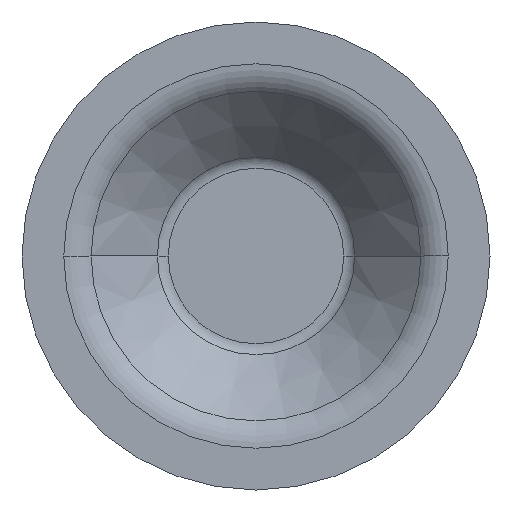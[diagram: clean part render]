
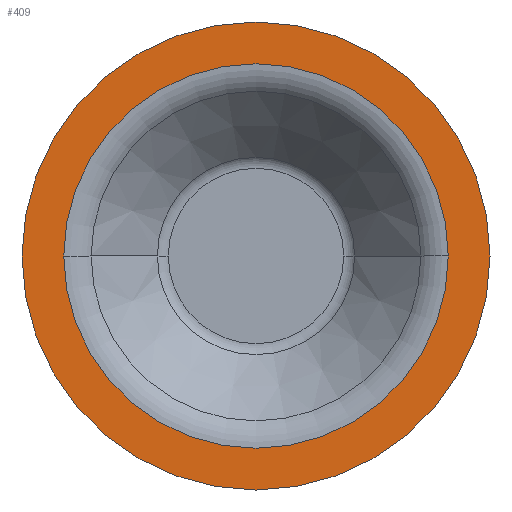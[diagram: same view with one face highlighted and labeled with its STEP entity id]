
A CAD part, front view. The second image highlights one B-rep face of the part: STEP entity #409.
In plain terms, the highlighted planar face has unit normal (0, -1, 0).
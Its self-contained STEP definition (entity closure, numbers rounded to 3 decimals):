
#3 = CARTESIAN_POINT ( 'NONE',  ( -25.88, -15., 0. ) ) ;
#6 = EDGE_LOOP ( 'NONE', ( #391, #484 ) ) ;
#34 = DIRECTION ( 'NONE',  ( 0., -1., 0. ) ) ;
#48 = CARTESIAN_POINT ( 'NONE',  ( 0., -15., 0. ) ) ;
#50 = DIRECTION ( 'NONE',  ( 1., 0., 0. ) ) ;
#88 = CARTESIAN_POINT ( 'NONE',  ( 0., -15., 0. ) ) ;
#189 = EDGE_CURVE ( 'NONE', #1091, #957, #1534, .T. ) ;
#232 = DIRECTION ( 'NONE',  ( 1., 0., 0. ) ) ;
#289 = PLANE ( 'NONE',  #566 ) ;
#293 = DIRECTION ( 'NONE',  ( 1., 0., 0. ) ) ;
#302 = CARTESIAN_POINT ( 'NONE',  ( -31.5, -15., 0. ) ) ;
#334 = AXIS2_PLACEMENT_3D ( 'NONE', #88, #1365, #232 ) ;
#391 = ORIENTED_EDGE ( 'NONE', *, *, #189, .F. ) ;
#409 = ADVANCED_FACE ( 'NONE', ( #544, #926 ), #289, .T. ) ;
#437 = ORIENTED_EDGE ( 'NONE', *, *, #907, .T. ) ;
#471 = CARTESIAN_POINT ( 'NONE',  ( 25.88, -15., 0. ) ) ;
#474 = CARTESIAN_POINT ( 'NONE',  ( 0., -15., 0. ) ) ;
#484 = ORIENTED_EDGE ( 'NONE', *, *, #1061, .F. ) ;
#501 = ORIENTED_EDGE ( 'NONE', *, *, #885, .T. ) ;
#544 = FACE_BOUND ( 'NONE', #6, .T. ) ;
#566 = AXIS2_PLACEMENT_3D ( 'NONE', #1294, #1051, #293 ) ;
#739 = VERTEX_POINT ( 'NONE', #1027 ) ;
#790 = CIRCLE ( 'NONE', #334, 31.5 ) ;
#807 = AXIS2_PLACEMENT_3D ( 'NONE', #474, #1487, #876 ) ;
#809 = CIRCLE ( 'NONE', #1509, 31.5 ) ;
#876 = DIRECTION ( 'NONE',  ( -1., 0., 0. ) ) ;
#885 = EDGE_CURVE ( 'NONE', #739, #1201, #809, .T. ) ;
#907 = EDGE_CURVE ( 'NONE', #1201, #739, #790, .T. ) ;
#926 = FACE_OUTER_BOUND ( 'NONE', #1348, .T. ) ;
#939 = AXIS2_PLACEMENT_3D ( 'NONE', #48, #34, #1417 ) ;
#957 = VERTEX_POINT ( 'NONE', #471 ) ;
#1027 = CARTESIAN_POINT ( 'NONE',  ( 31.5, -15., 0. ) ) ;
#1051 = DIRECTION ( 'NONE',  ( 0., -1., 0. ) ) ;
#1061 = EDGE_CURVE ( 'NONE', #957, #1091, #1132, .T. ) ;
#1091 = VERTEX_POINT ( 'NONE', #3 ) ;
#1132 = CIRCLE ( 'NONE', #807, 25.88 ) ;
#1183 = CARTESIAN_POINT ( 'NONE',  ( 0., -15., 0. ) ) ;
#1201 = VERTEX_POINT ( 'NONE', #302 ) ;
#1294 = CARTESIAN_POINT ( 'NONE',  ( 31.5, -15., 0. ) ) ;
#1320 = DIRECTION ( 'NONE',  ( 0., -1., 0. ) ) ;
#1348 = EDGE_LOOP ( 'NONE', ( #501, #437 ) ) ;
#1365 = DIRECTION ( 'NONE',  ( 0., -1., 0. ) ) ;
#1417 = DIRECTION ( 'NONE',  ( -1., 0., 0. ) ) ;
#1487 = DIRECTION ( 'NONE',  ( 0., -1., 0. ) ) ;
#1509 = AXIS2_PLACEMENT_3D ( 'NONE', #1183, #1320, #50 ) ;
#1534 = CIRCLE ( 'NONE', #939, 25.88 ) ;
